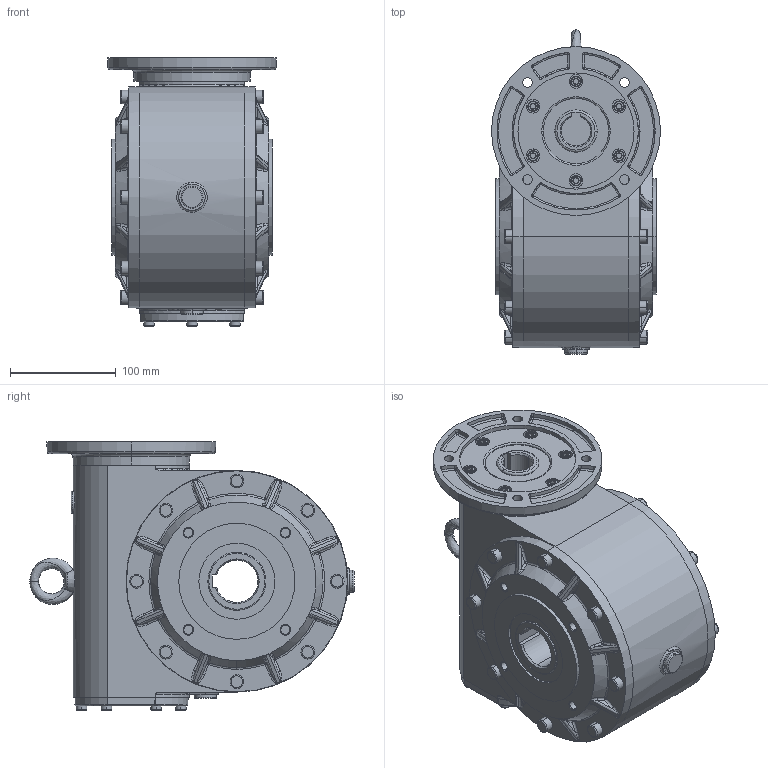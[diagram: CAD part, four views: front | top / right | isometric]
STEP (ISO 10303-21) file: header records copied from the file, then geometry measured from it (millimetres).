
FILE_DESCRIPTION (( 'STEP AP214' ), '1' );
FILE_NAME ('Sestava MRT100-FTRL.STEP', '2007-06-25T11:11:46', ( '' ), ( '' ), 'SwSTEP 2.0', 'SolidWorks 2004146', '' );
FILE_SCHEMA (( 'AUTOMOTIVE_DESIGN' ));
Length unit declared in the file: millimetre
Products named in the file (7): Pøíruba FT 100_Výchozí; Skøíò100_Výchozí; Pøíruba MRT100 kulatá _110-130-150; Sestava MRT100-FTRL; A18151M_ANSI B18.15.1M Závìsný šroub M10; Sroub s vnitrnim sestihranem DIN 912 00457ROI; Víèko_Výchozí
Assembly tree (12 placements, depth 2):
  Sestava MRT100-FTRL
    Pøíruba FT 100_Výchozí  x2
    Sroub s vnitrnim sestihranem DIN 912 00457ROI  x6
    Pøíruba MRT100 kulatá _110-130-150
    Skøíò100_Výchozí
    Víèko_Výchozí
    A18151M_ANSI B18.15.1M Závìsný šroub M10
Bounding box: 160 x 307 x 254 mm (x, y, z)
Volume: 6267376.6 mm3; surface area: 470735.4 mm2
Topology: 12 solids, 12 shells, 913 faces, 2005 edges, 1180 vertices
Faces by surface type: cylinder 215, plane 180, torus 171, cone 163, bspline 138, sphere 46
Entity records: 81997 total; most frequent: CARTESIAN_POINT 68970, DIRECTION 2808, ORIENTED_EDGE 2556, EDGE_CURVE 1278, AXIS2_PLACEMENT_3D 1249, VERTEX_POINT 767, CIRCLE 741, EDGE_LOOP 647
